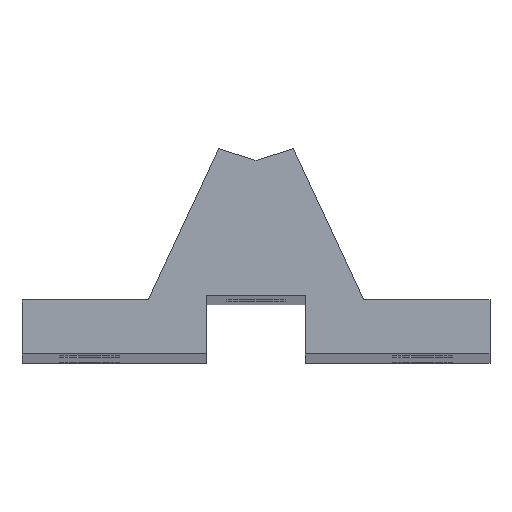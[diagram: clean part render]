
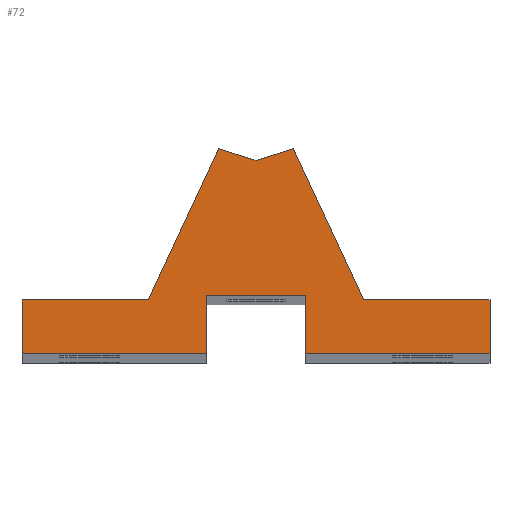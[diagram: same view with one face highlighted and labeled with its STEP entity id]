
A CAD part, top view. The second image highlights one B-rep face of the part: STEP entity #72.
In plain terms, the highlighted planar face has unit normal (0, 0, 1).
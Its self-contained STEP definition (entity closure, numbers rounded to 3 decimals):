
#15 = VECTOR ( 'NONE', #1085, 1000. ) ;
#20 = VERTEX_POINT ( 'NONE', #1352 ) ;
#51 = DIRECTION ( 'NONE',  ( 1., 0., 0. ) ) ;
#72 = ADVANCED_FACE ( 'NONE', ( #390 ), #512, .T. ) ;
#73 = CARTESIAN_POINT ( 'NONE',  ( -5.5, 3.5, 299.75 ) ) ;
#74 = CARTESIAN_POINT ( 'NONE',  ( 4.1, 19.879, 299.75 ) ) ;
#75 = DIRECTION ( 'NONE',  ( -0.954, 0.301, 0. ) ) ;
#85 = EDGE_CURVE ( 'NONE', #1257, #1016, #1316, .T. ) ;
#86 = DIRECTION ( 'NONE',  ( -0.423, 0.906, 0. ) ) ;
#87 = CARTESIAN_POINT ( 'NONE',  ( -26., 3., 299.75 ) ) ;
#104 = LINE ( 'NONE', #333, #1133 ) ;
#122 = AXIS2_PLACEMENT_3D ( 'NONE', #365, #1441, #51 ) ;
#124 = VECTOR ( 'NONE', #702, 1000. ) ;
#128 = ORIENTED_EDGE ( 'NONE', *, *, #1289, .T. ) ;
#143 = LINE ( 'NONE', #1369, #639 ) ;
#190 = DIRECTION ( 'NONE',  ( 0., 1., 0. ) ) ;
#207 = DIRECTION ( 'NONE',  ( -1., 0., 0. ) ) ;
#216 = VECTOR ( 'NONE', #190, 1000. ) ;
#238 = DIRECTION ( 'NONE',  ( -1., 0., 0. ) ) ;
#290 = LINE ( 'NONE', #1114, #1454 ) ;
#295 = CARTESIAN_POINT ( 'NONE',  ( -5.5, 3.5, 299.75 ) ) ;
#326 = VERTEX_POINT ( 'NONE', #1285 ) ;
#333 = CARTESIAN_POINT ( 'NONE',  ( -26., 3., 299.75 ) ) ;
#346 = LINE ( 'NONE', #907, #1359 ) ;
#356 = VECTOR ( 'NONE', #75, 1000. ) ;
#361 = VECTOR ( 'NONE', #712, 1000. ) ;
#365 = CARTESIAN_POINT ( 'NONE',  ( 0., 0., 299.75 ) ) ;
#375 = VERTEX_POINT ( 'NONE', #797 ) ;
#377 = EDGE_CURVE ( 'NONE', #769, #1512, #104, .T. ) ;
#379 = VERTEX_POINT ( 'NONE', #802 ) ;
#390 = FACE_OUTER_BOUND ( 'NONE', #1487, .T. ) ;
#399 = CARTESIAN_POINT ( 'NONE',  ( 0., 18.515, 299.75 ) ) ;
#423 = CARTESIAN_POINT ( 'NONE',  ( 26., -3., 299.75 ) ) ;
#476 = VERTEX_POINT ( 'NONE', #399 ) ;
#480 = ORIENTED_EDGE ( 'NONE', *, *, #1270, .T. ) ;
#489 = EDGE_CURVE ( 'NONE', #20, #1181, #969, .T. ) ;
#502 = CARTESIAN_POINT ( 'NONE',  ( -11.971, 3., 299.75 ) ) ;
#512 = PLANE ( 'NONE',  #122 ) ;
#527 = DIRECTION ( 'NONE',  ( -0.954, -0.301, 0. ) ) ;
#542 = CARTESIAN_POINT ( 'NONE',  ( 0., 18.515, 299.75 ) ) ;
#593 = ORIENTED_EDGE ( 'NONE', *, *, #999, .T. ) ;
#598 = ORIENTED_EDGE ( 'NONE', *, *, #1299, .T. ) ;
#601 = EDGE_CURVE ( 'NONE', #1512, #375, #885, .T. ) ;
#613 = CARTESIAN_POINT ( 'NONE',  ( -26., 3., 299.75 ) ) ;
#639 = VECTOR ( 'NONE', #752, 1000. ) ;
#649 = CARTESIAN_POINT ( 'NONE',  ( 11.971, 3., 299.75 ) ) ;
#672 = ORIENTED_EDGE ( 'NONE', *, *, #1504, .F. ) ;
#684 = ORIENTED_EDGE ( 'NONE', *, *, #1493, .F. ) ;
#702 = DIRECTION ( 'NONE',  ( 0., 1., 0. ) ) ;
#712 = DIRECTION ( 'NONE',  ( 0., -1., 0. ) ) ;
#714 = LINE ( 'NONE', #613, #1305 ) ;
#730 = ORIENTED_EDGE ( 'NONE', *, *, #377, .T. ) ;
#752 = DIRECTION ( 'NONE',  ( -0.423, -0.906, 0. ) ) ;
#757 = VECTOR ( 'NONE', #86, 1000. ) ;
#769 = VERTEX_POINT ( 'NONE', #1095 ) ;
#790 = DIRECTION ( 'NONE',  ( 1., 0., 0. ) ) ;
#797 = CARTESIAN_POINT ( 'NONE',  ( 4.129, 19.817, 299.75 ) ) ;
#802 = CARTESIAN_POINT ( 'NONE',  ( -4.129, 19.817, 299.75 ) ) ;
#864 = ORIENTED_EDGE ( 'NONE', *, *, #1485, .T. ) ;
#885 = LINE ( 'NONE', #74, #757 ) ;
#901 = CARTESIAN_POINT ( 'NONE',  ( 5.5, 3.5, 299.75 ) ) ;
#907 = CARTESIAN_POINT ( 'NONE',  ( -26., -3., 299.75 ) ) ;
#918 = ORIENTED_EDGE ( 'NONE', *, *, #601, .T. ) ;
#920 = VECTOR ( 'NONE', #1291, 1000. ) ;
#938 = EDGE_CURVE ( 'NONE', #20, #1227, #1231, .T. ) ;
#969 = LINE ( 'NONE', #1432, #124 ) ;
#999 = EDGE_CURVE ( 'NONE', #375, #476, #1463, .T. ) ;
#1016 = VERTEX_POINT ( 'NONE', #1473 ) ;
#1085 = DIRECTION ( 'NONE',  ( 1., 0., 0. ) ) ;
#1095 = CARTESIAN_POINT ( 'NONE',  ( 26., 3., 299.75 ) ) ;
#1112 = CARTESIAN_POINT ( 'NONE',  ( 4.327, 19.879, 299.75 ) ) ;
#1114 = CARTESIAN_POINT ( 'NONE',  ( -5.5, 3.5, 299.75 ) ) ;
#1122 = ORIENTED_EDGE ( 'NONE', *, *, #85, .T. ) ;
#1129 = VERTEX_POINT ( 'NONE', #502 ) ;
#1133 = VECTOR ( 'NONE', #238, 1000. ) ;
#1175 = EDGE_CURVE ( 'NONE', #476, #379, #1253, .T. ) ;
#1181 = VERTEX_POINT ( 'NONE', #901 ) ;
#1186 = VERTEX_POINT ( 'NONE', #295 ) ;
#1200 = DIRECTION ( 'NONE',  ( -1., 0., 0. ) ) ;
#1227 = VERTEX_POINT ( 'NONE', #423 ) ;
#1231 = LINE ( 'NONE', #1335, #15 ) ;
#1251 = ORIENTED_EDGE ( 'NONE', *, *, #938, .T. ) ;
#1253 = LINE ( 'NONE', #542, #356 ) ;
#1257 = VERTEX_POINT ( 'NONE', #87 ) ;
#1270 = EDGE_CURVE ( 'NONE', #1016, #326, #346, .T. ) ;
#1285 = CARTESIAN_POINT ( 'NONE',  ( -5.5, -3., 299.75 ) ) ;
#1289 = EDGE_CURVE ( 'NONE', #1129, #1257, #714, .T. ) ;
#1291 = DIRECTION ( 'NONE',  ( 0., -1., 0. ) ) ;
#1299 = EDGE_CURVE ( 'NONE', #379, #1129, #143, .T. ) ;
#1305 = VECTOR ( 'NONE', #1200, 1000. ) ;
#1316 = LINE ( 'NONE', #1331, #361 ) ;
#1331 = CARTESIAN_POINT ( 'NONE',  ( -26., 3., 299.75 ) ) ;
#1335 = CARTESIAN_POINT ( 'NONE',  ( -26., -3., 299.75 ) ) ;
#1339 = VECTOR ( 'NONE', #527, 1000. ) ;
#1352 = CARTESIAN_POINT ( 'NONE',  ( 5.5, -3., 299.75 ) ) ;
#1359 = VECTOR ( 'NONE', #790, 1000. ) ;
#1367 = LINE ( 'NONE', #1379, #216 ) ;
#1369 = CARTESIAN_POINT ( 'NONE',  ( -11.971, 3., 299.75 ) ) ;
#1378 = ORIENTED_EDGE ( 'NONE', *, *, #1175, .T. ) ;
#1379 = CARTESIAN_POINT ( 'NONE',  ( 26., 3., 299.75 ) ) ;
#1425 = ORIENTED_EDGE ( 'NONE', *, *, #489, .F. ) ;
#1432 = CARTESIAN_POINT ( 'NONE',  ( 5.5, 3.5, 299.75 ) ) ;
#1441 = DIRECTION ( 'NONE',  ( 0., 0., 1. ) ) ;
#1454 = VECTOR ( 'NONE', #207, 1000. ) ;
#1463 = LINE ( 'NONE', #1112, #1339 ) ;
#1473 = CARTESIAN_POINT ( 'NONE',  ( -26., -3., 299.75 ) ) ;
#1485 = EDGE_CURVE ( 'NONE', #1227, #769, #1367, .T. ) ;
#1487 = EDGE_LOOP ( 'NONE', ( #1425, #1251, #864, #730, #918, #593, #1378, #598, #128, #1122, #480, #672, #684 ) ) ;
#1493 = EDGE_CURVE ( 'NONE', #1181, #1186, #290, .T. ) ;
#1500 = LINE ( 'NONE', #73, #920 ) ;
#1504 = EDGE_CURVE ( 'NONE', #1186, #326, #1500, .T. ) ;
#1512 = VERTEX_POINT ( 'NONE', #649 ) ;
